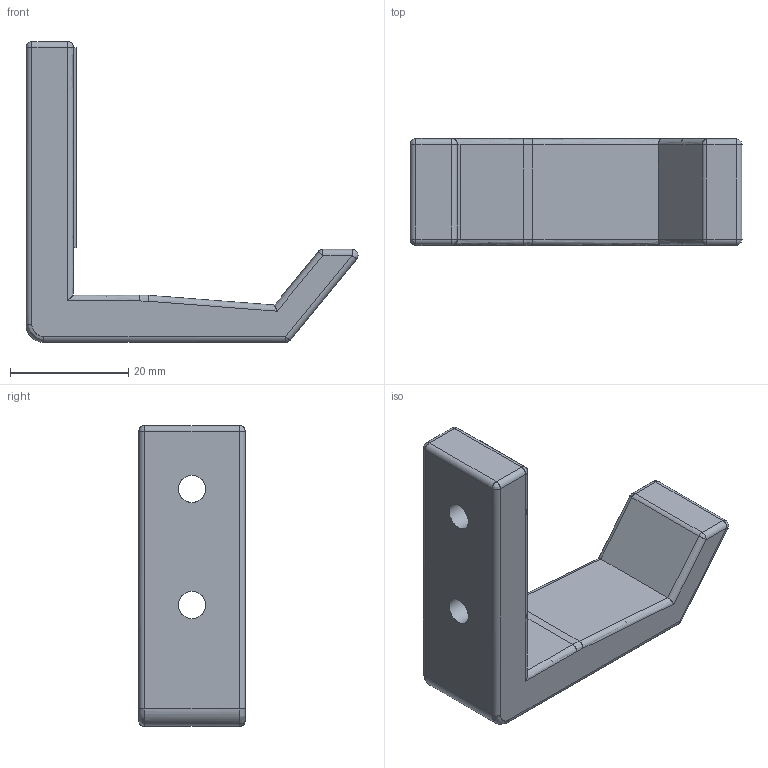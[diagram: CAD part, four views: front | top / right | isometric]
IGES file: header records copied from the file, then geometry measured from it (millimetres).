
Start section: C
Global section: file name: 087-57.igs; native system: By Siemens PLM Incorporated; preprocessor: XPlus GENERIC/IGES 16.0.42; author: Author; organization: Title; date: 20231210.153148; units: millimetre
Bounding box: 56.08 x 18 x 50.8 mm (x, y, z)
Surface area: 5436.8 mm2 (no closed solid volume)
Topology: 0 solids, 0 shells, 61 faces, 280 edges, 270 vertices
Faces by surface type: bspline 61
